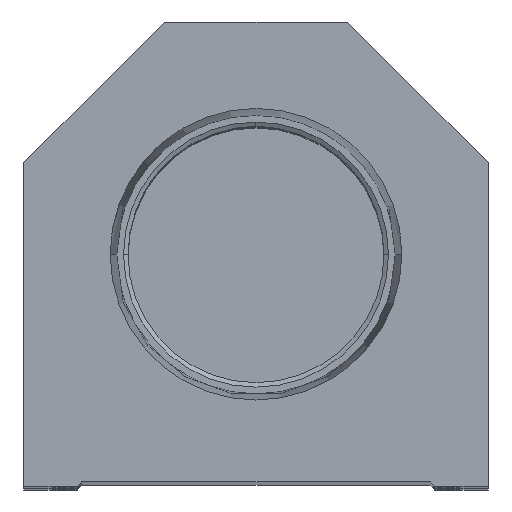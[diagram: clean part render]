
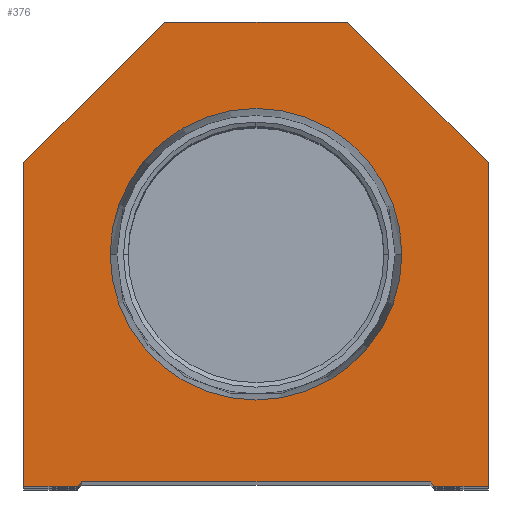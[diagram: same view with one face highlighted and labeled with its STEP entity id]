
A CAD part, top view. The second image highlights one B-rep face of the part: STEP entity #376.
In plain terms, the highlighted planar face has unit normal (0, 0, 1).
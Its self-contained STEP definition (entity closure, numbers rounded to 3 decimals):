
#266 = EDGE_CURVE ( 'NONE', #14947, #4602, #337, .T. ) ;
#337 = LINE ( 'NONE', #12754, #12366 ) ;
#376 = ADVANCED_FACE ( 'NONE', ( #19154, #5068 ), #13651, .T. ) ;
#1353 = AXIS2_PLACEMENT_3D ( 'NONE', #7593, #10950, #7701 ) ;
#1360 = EDGE_CURVE ( 'NONE', #10534, #18365, #2277, .T. ) ;
#1405 = VECTOR ( 'NONE', #7584, 1000. ) ;
#1676 = DIRECTION ( 'NONE',  ( 1., 0., 0. ) ) ;
#1895 = ORIENTED_EDGE ( 'NONE', *, *, #16924, .T. ) ;
#2277 = LINE ( 'NONE', #11426, #9669 ) ;
#2517 = VECTOR ( 'NONE', #4325, 1000. ) ;
#2788 = LINE ( 'NONE', #18832, #7377 ) ;
#2829 = CARTESIAN_POINT ( 'NONE',  ( -25.4, 35.4, 0. ) ) ;
#2860 = VERTEX_POINT ( 'NONE', #2829 ) ;
#2882 = CARTESIAN_POINT ( 'NONE',  ( 19.05, 0.5, 0. ) ) ;
#3293 = CIRCLE ( 'NONE', #9186, 15.947 ) ;
#3664 = DIRECTION ( 'NONE',  ( 1., 0., 0. ) ) ;
#4023 = LINE ( 'NONE', #22141, #15962 ) ;
#4325 = DIRECTION ( 'NONE',  ( 0.707, -0.707, 0. ) ) ;
#4400 = EDGE_CURVE ( 'NONE', #2860, #14947, #4023, .T. ) ;
#4451 = ORIENTED_EDGE ( 'NONE', *, *, #4472, .T. ) ;
#4472 = EDGE_CURVE ( 'NONE', #4602, #15381, #20527, .T. ) ;
#4602 = VERTEX_POINT ( 'NONE', #16748 ) ;
#4606 = VECTOR ( 'NONE', #1676, 1000. ) ;
#4610 = ORIENTED_EDGE ( 'NONE', *, *, #21451, .T. ) ;
#4679 = LINE ( 'NONE', #18405, #2517 ) ;
#4887 = VECTOR ( 'NONE', #3664, 1000. ) ;
#5068 = FACE_OUTER_BOUND ( 'NONE', #9953, .T. ) ;
#5180 = DIRECTION ( 'NONE',  ( 1., 0., 0. ) ) ;
#5248 = ORIENTED_EDGE ( 'NONE', *, *, #4400, .T. ) ;
#5353 = DIRECTION ( 'NONE',  ( 0., 0., 1. ) ) ;
#5877 = DIRECTION ( 'NONE',  ( 1., 0., 0. ) ) ;
#6143 = VERTEX_POINT ( 'NONE', #16674 ) ;
#6220 = DIRECTION ( 'NONE',  ( 0., -1., 0. ) ) ;
#6325 = VECTOR ( 'NONE', #10156, 1000. ) ;
#6471 = EDGE_CURVE ( 'NONE', #7131, #12203, #10477, .T. ) ;
#7065 = CARTESIAN_POINT ( 'NONE',  ( 0., 25.4, 0. ) ) ;
#7131 = VERTEX_POINT ( 'NONE', #7869 ) ;
#7365 = VECTOR ( 'NONE', #12978, 1000. ) ;
#7377 = VECTOR ( 'NONE', #18718, 1000. ) ;
#7584 = DIRECTION ( 'NONE',  ( -0.707, -0.707, 0. ) ) ;
#7593 = CARTESIAN_POINT ( 'NONE',  ( 0., 25.4, 0. ) ) ;
#7701 = DIRECTION ( 'NONE',  ( 1., 0., 0. ) ) ;
#7869 = CARTESIAN_POINT ( 'NONE',  ( 19.55, 0., 0. ) ) ;
#8210 = EDGE_CURVE ( 'NONE', #15381, #20851, #17388, .T. ) ;
#8981 = CARTESIAN_POINT ( 'NONE',  ( 10., 50.8, 0. ) ) ;
#9031 = DIRECTION ( 'NONE',  ( 1., 0., 0. ) ) ;
#9186 = AXIS2_PLACEMENT_3D ( 'NONE', #7065, #5353, #9031 ) ;
#9349 = LINE ( 'NONE', #13100, #7365 ) ;
#9669 = VECTOR ( 'NONE', #19930, 1000. ) ;
#9953 = EDGE_LOOP ( 'NONE', ( #11050, #4451, #18516, #15683, #18726, #4610, #11329, #22126, #1895, #5248 ) ) ;
#10156 = DIRECTION ( 'NONE',  ( 0.707, 0.707, 0. ) ) ;
#10477 = LINE ( 'NONE', #17598, #4606 ) ;
#10534 = VERTEX_POINT ( 'NONE', #8981 ) ;
#10950 = DIRECTION ( 'NONE',  ( 0., 0., 1. ) ) ;
#11050 = ORIENTED_EDGE ( 'NONE', *, *, #266, .T. ) ;
#11329 = ORIENTED_EDGE ( 'NONE', *, *, #20745, .T. ) ;
#11426 = CARTESIAN_POINT ( 'NONE',  ( 10., 50.8, 0. ) ) ;
#12043 = CARTESIAN_POINT ( 'NONE',  ( -9.775, 9.775, 0. ) ) ;
#12105 = ORIENTED_EDGE ( 'NONE', *, *, #18057, .F. ) ;
#12203 = VERTEX_POINT ( 'NONE', #13308 ) ;
#12366 = VECTOR ( 'NONE', #5877, 1000. ) ;
#12754 = CARTESIAN_POINT ( 'NONE',  ( -19.05, 0., 0. ) ) ;
#12866 = CARTESIAN_POINT ( 'NONE',  ( -25.4, 0., 0. ) ) ;
#12905 = CARTESIAN_POINT ( 'NONE',  ( -10., 50.8, 0. ) ) ;
#12978 = DIRECTION ( 'NONE',  ( -0.707, 0.707, 0. ) ) ;
#13100 = CARTESIAN_POINT ( 'NONE',  ( 25.4, 35.4, 0. ) ) ;
#13266 = CARTESIAN_POINT ( 'NONE',  ( -25.4, 35.4, 0. ) ) ;
#13308 = CARTESIAN_POINT ( 'NONE',  ( 25.4, 0., 0. ) ) ;
#13651 = PLANE ( 'NONE',  #20898 ) ;
#14947 = VERTEX_POINT ( 'NONE', #12866 ) ;
#15381 = VERTEX_POINT ( 'NONE', #20957 ) ;
#15556 = EDGE_LOOP ( 'NONE', ( #18087, #12105 ) ) ;
#15683 = ORIENTED_EDGE ( 'NONE', *, *, #20581, .T. ) ;
#15962 = VECTOR ( 'NONE', #6220, 1000. ) ;
#16425 = LINE ( 'NONE', #13266, #1405 ) ;
#16674 = CARTESIAN_POINT ( 'NONE',  ( 15.947, 25.4, 0. ) ) ;
#16748 = CARTESIAN_POINT ( 'NONE',  ( -19.55, 0., 0. ) ) ;
#16924 = EDGE_CURVE ( 'NONE', #18365, #2860, #16425, .T. ) ;
#17280 = CARTESIAN_POINT ( 'NONE',  ( 0., 0., 0. ) ) ;
#17315 = CIRCLE ( 'NONE', #1353, 15.947 ) ;
#17388 = LINE ( 'NONE', #21207, #4887 ) ;
#17598 = CARTESIAN_POINT ( 'NONE',  ( 19.05, 0., 0. ) ) ;
#18057 = EDGE_CURVE ( 'NONE', #19393, #6143, #17315, .T. ) ;
#18087 = ORIENTED_EDGE ( 'NONE', *, *, #19951, .F. ) ;
#18365 = VERTEX_POINT ( 'NONE', #12905 ) ;
#18405 = CARTESIAN_POINT ( 'NONE',  ( 9.775, 9.775, 0. ) ) ;
#18516 = ORIENTED_EDGE ( 'NONE', *, *, #8210, .T. ) ;
#18718 = DIRECTION ( 'NONE',  ( 0., 1., 0. ) ) ;
#18726 = ORIENTED_EDGE ( 'NONE', *, *, #6471, .T. ) ;
#18832 = CARTESIAN_POINT ( 'NONE',  ( 25.4, 0., 0. ) ) ;
#19154 = FACE_BOUND ( 'NONE', #15556, .T. ) ;
#19393 = VERTEX_POINT ( 'NONE', #22622 ) ;
#19930 = DIRECTION ( 'NONE',  ( -1., 0., 0. ) ) ;
#19951 = EDGE_CURVE ( 'NONE', #6143, #19393, #3293, .T. ) ;
#20527 = LINE ( 'NONE', #12043, #6325 ) ;
#20581 = EDGE_CURVE ( 'NONE', #20851, #7131, #4679, .T. ) ;
#20745 = EDGE_CURVE ( 'NONE', #21109, #10534, #9349, .T. ) ;
#20851 = VERTEX_POINT ( 'NONE', #2882 ) ;
#20898 = AXIS2_PLACEMENT_3D ( 'NONE', #17280, #22934, #5180 ) ;
#20957 = CARTESIAN_POINT ( 'NONE',  ( -19.05, 0.5, 0. ) ) ;
#21109 = VERTEX_POINT ( 'NONE', #22813 ) ;
#21207 = CARTESIAN_POINT ( 'NONE',  ( -19.05, 0.5, 0. ) ) ;
#21451 = EDGE_CURVE ( 'NONE', #12203, #21109, #2788, .T. ) ;
#22126 = ORIENTED_EDGE ( 'NONE', *, *, #1360, .T. ) ;
#22141 = CARTESIAN_POINT ( 'NONE',  ( -25.4, 0., 0. ) ) ;
#22622 = CARTESIAN_POINT ( 'NONE',  ( -15.947, 25.4, 0. ) ) ;
#22813 = CARTESIAN_POINT ( 'NONE',  ( 25.4, 35.4, 0. ) ) ;
#22934 = DIRECTION ( 'NONE',  ( 0., 0., 1. ) ) ;
